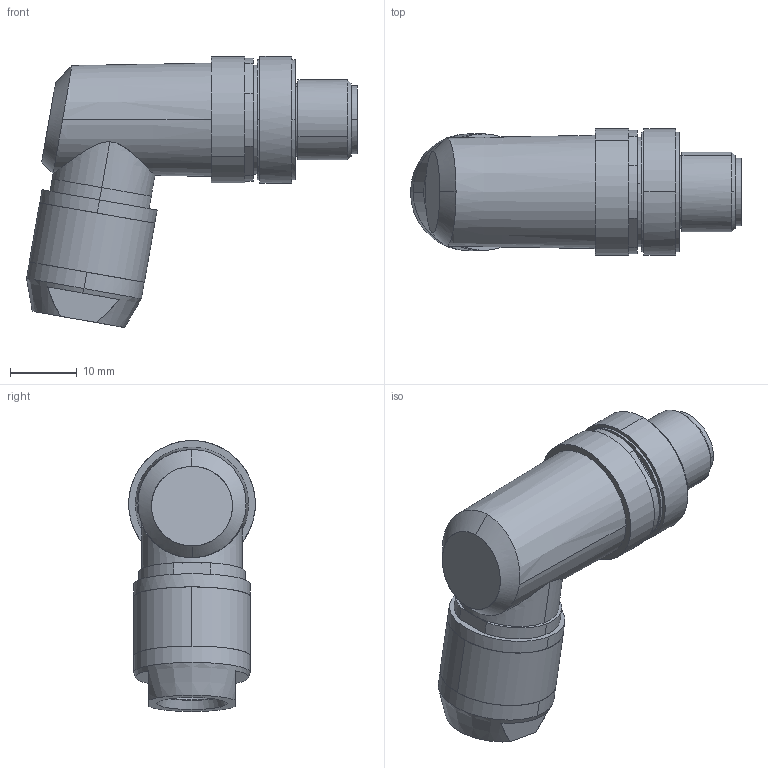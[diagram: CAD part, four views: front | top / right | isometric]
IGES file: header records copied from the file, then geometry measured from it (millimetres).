
Start section:  PTC IGES file: R412026802\r412026802.iges
Global section: file name: R412026802\r412026802.iges; native system: Creo Parametric by PTC Inc.; preprocessor: 2020044; author: THD3HC; organization: Unknown; date: 20240122.140724; units: millimetre
Bounding box: 49.66 x 19.01 x 40.67 mm (x, y, z)
Surface area: 4847.3 mm2 (no closed solid volume)
Topology: 0 solids, 0 shells, 129 faces, 678 edges, 678 vertices
Faces by surface type: revolution 71, bspline 58
